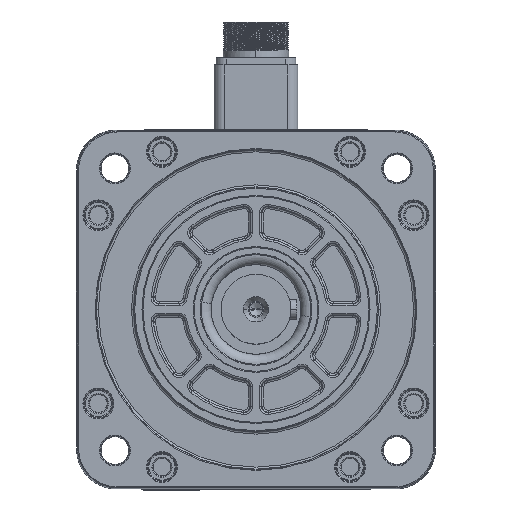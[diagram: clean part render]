
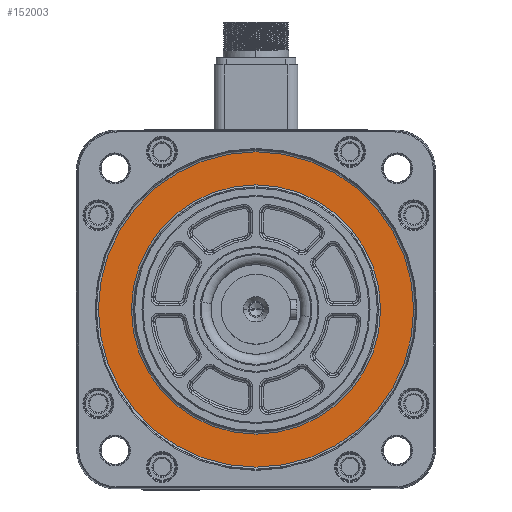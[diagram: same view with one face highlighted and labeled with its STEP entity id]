
A CAD part, top view. The second image highlights one B-rep face of the part: STEP entity #152003.
In plain terms, the highlighted planar face has unit normal (0, 0, 1).
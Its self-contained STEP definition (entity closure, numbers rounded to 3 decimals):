
#2921 = CARTESIAN_POINT ( 'NONE',  ( 62.466, 0., 15. ) ) ;
#3937 = CARTESIAN_POINT ( 'NONE',  ( 0., 0., 15. ) ) ;
#7711 = CIRCLE ( 'NONE', #141614, 62.466 ) ;
#16130 = EDGE_CURVE ( 'NONE', #159230, #139183, #120663, .T. ) ;
#16520 = EDGE_CURVE ( 'NONE', #57766, #112460, #36328, .T. ) ;
#18681 = DIRECTION ( 'NONE',  ( 1., 0., 0. ) ) ;
#20036 = CARTESIAN_POINT ( 'NONE',  ( 0., 0., 15. ) ) ;
#24975 = CARTESIAN_POINT ( 'NONE',  ( -62.466, 0., 15. ) ) ;
#25683 = AXIS2_PLACEMENT_3D ( 'NONE', #37954, #108112, #40628 ) ;
#31922 = DIRECTION ( 'NONE',  ( 1., 0., 0. ) ) ;
#33871 = ORIENTED_EDGE ( 'NONE', *, *, #16520, .T. ) ;
#36328 = CIRCLE ( 'NONE', #74185, 62.466 ) ;
#37159 = ORIENTED_EDGE ( 'NONE', *, *, #16130, .T. ) ;
#37954 = CARTESIAN_POINT ( 'NONE',  ( 0., 0., 15. ) ) ;
#40628 = DIRECTION ( 'NONE',  ( 1., 0., 0. ) ) ;
#40700 = EDGE_CURVE ( 'NONE', #112460, #57766, #7711, .T. ) ;
#42053 = AXIS2_PLACEMENT_3D ( 'NONE', #143538, #139970, #18681 ) ;
#57766 = VERTEX_POINT ( 'NONE', #24975 ) ;
#58754 = EDGE_LOOP ( 'NONE', ( #92398, #33871 ) ) ;
#59496 = DIRECTION ( 'NONE',  ( 0., 0., 1. ) ) ;
#64036 = DIRECTION ( 'NONE',  ( 1., 0., 0. ) ) ;
#74185 = AXIS2_PLACEMENT_3D ( 'NONE', #20036, #156795, #31922 ) ;
#87250 = EDGE_LOOP ( 'NONE', ( #154699, #37159 ) ) ;
#91376 = CARTESIAN_POINT ( 'NONE',  ( 0., 0., 15. ) ) ;
#92398 = ORIENTED_EDGE ( 'NONE', *, *, #40700, .T. ) ;
#108112 = DIRECTION ( 'NONE',  ( 0., 0., 1. ) ) ;
#112460 = VERTEX_POINT ( 'NONE', #2921 ) ;
#115115 = FACE_OUTER_BOUND ( 'NONE', #87250, .T. ) ;
#115630 = CARTESIAN_POINT ( 'NONE',  ( 79.034, 0., 15. ) ) ;
#116699 = CARTESIAN_POINT ( 'NONE',  ( -79.034, 0., 15. ) ) ;
#120663 = CIRCLE ( 'NONE', #42053, 79.034 ) ;
#130597 = DIRECTION ( 'NONE',  ( 1., 0., 0. ) ) ;
#139183 = VERTEX_POINT ( 'NONE', #115630 ) ;
#139970 = DIRECTION ( 'NONE',  ( 0., 0., 1. ) ) ;
#141614 = AXIS2_PLACEMENT_3D ( 'NONE', #91376, #176128, #64036 ) ;
#143538 = CARTESIAN_POINT ( 'NONE',  ( 0., 0., 15. ) ) ;
#144262 = FACE_BOUND ( 'NONE', #58754, .T. ) ;
#147234 = AXIS2_PLACEMENT_3D ( 'NONE', #3937, #59496, #130597 ) ;
#152003 = ADVANCED_FACE ( 'NONE', ( #115115, #144262 ), #168905, .T. ) ;
#154699 = ORIENTED_EDGE ( 'NONE', *, *, #162883, .T. ) ;
#156795 = DIRECTION ( 'NONE',  ( 0., 0., -1. ) ) ;
#159230 = VERTEX_POINT ( 'NONE', #116699 ) ;
#162449 = CIRCLE ( 'NONE', #25683, 79.034 ) ;
#162883 = EDGE_CURVE ( 'NONE', #139183, #159230, #162449, .T. ) ;
#168905 = PLANE ( 'NONE',  #147234 ) ;
#176128 = DIRECTION ( 'NONE',  ( 0., 0., -1. ) ) ;
